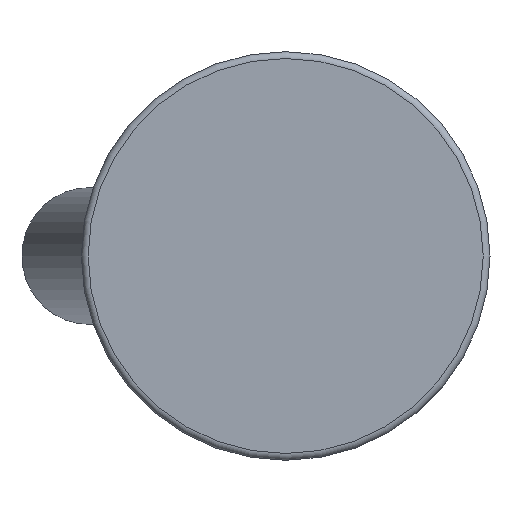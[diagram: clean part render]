
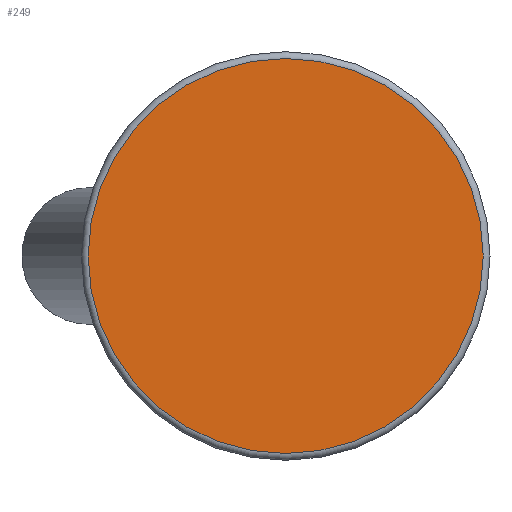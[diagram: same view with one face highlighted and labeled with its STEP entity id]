
A CAD part, front view. The second image highlights one B-rep face of the part: STEP entity #249.
In plain terms, the highlighted planar face has unit normal (0, -1, 0).
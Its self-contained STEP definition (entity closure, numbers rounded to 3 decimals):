
#249 = ADVANCED_FACE( '', ( #474 ), #475, .F. );
#474 = FACE_OUTER_BOUND( '', #674, .T. );
#475 = PLANE( '', #675 );
#674 = EDGE_LOOP( '', ( #1093 ) );
#675 = AXIS2_PLACEMENT_3D( '', #1094, #1095, #1096 );
#1093 = ORIENTED_EDGE( '', *, *, #1202, .T. );
#1094 = CARTESIAN_POINT( '', ( 29., 0., 0. ) );
#1095 = DIRECTION( '', ( 0., 1., 0. ) );
#1096 = DIRECTION( '', ( 0., 0., 1. ) );
#1202 = EDGE_CURVE( '', #1407, #1407, #1408, .T. );
#1407 = VERTEX_POINT( '', #1833 );
#1408 = CIRCLE( '', #1834, 29. );
#1833 = CARTESIAN_POINT( '', ( 0., 0., -29. ) );
#1834 = AXIS2_PLACEMENT_3D( '', #2106, #2107, #2108 );
#2106 = CARTESIAN_POINT( '', ( 0., 0., 0. ) );
#2107 = DIRECTION( '', ( 0., -1., 0. ) );
#2108 = DIRECTION( '', ( 0., 0., -1. ) );
